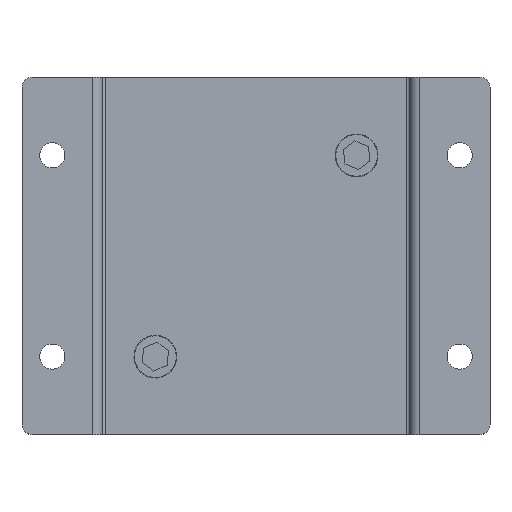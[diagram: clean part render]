
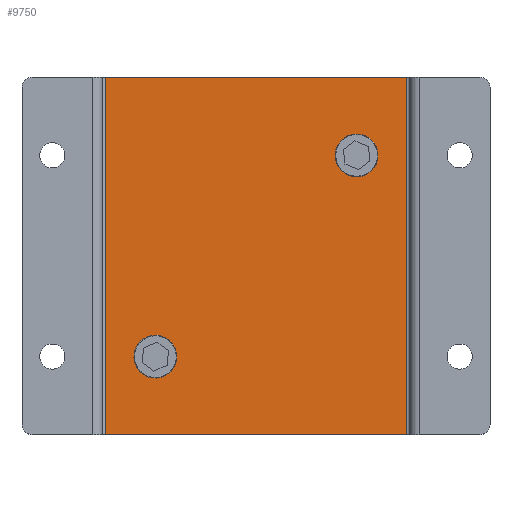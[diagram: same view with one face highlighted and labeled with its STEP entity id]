
A CAD part, top view. The second image highlights one B-rep face of the part: STEP entity #9750.
In plain terms, the highlighted planar face has unit normal (0, 0, 1) as drawn and (0, 0, -1) by its records, which use the part's own axes.
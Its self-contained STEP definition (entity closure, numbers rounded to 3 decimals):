
#69 = CIRCLE ( 'NONE', #5746, 2.75 ) ;
#504 = EDGE_LOOP ( 'NONE', ( #699, #6250 ) ) ;
#699 = ORIENTED_EDGE ( 'NONE', *, *, #5338, .T. ) ;
#722 = CARTESIAN_POINT ( 'NONE',  ( -30., 35.5, -1.5 ) ) ;
#1143 = EDGE_CURVE ( 'NONE', #2782, #10414, #2480, .T. ) ;
#1384 = AXIS2_PLACEMENT_3D ( 'NONE', #3897, #10658, #11710 ) ;
#1507 = LINE ( 'NONE', #13790, #2616 ) ;
#1916 = DIRECTION ( 'NONE',  ( 0., 0., 1. ) ) ;
#2000 = CARTESIAN_POINT ( 'NONE',  ( 30., -35.5, -1.5 ) ) ;
#2090 = CIRCLE ( 'NONE', #1384, 2.75 ) ;
#2406 = VECTOR ( 'NONE', #10046, 1000. ) ;
#2480 = LINE ( 'NONE', #13644, #12261 ) ;
#2543 = DIRECTION ( 'NONE',  ( 0., -1., 0. ) ) ;
#2553 = VERTEX_POINT ( 'NONE', #11133 ) ;
#2613 = ORIENTED_EDGE ( 'NONE', *, *, #12502, .T. ) ;
#2616 = VECTOR ( 'NONE', #2543, 1000. ) ;
#2782 = VERTEX_POINT ( 'NONE', #2000 ) ;
#2916 = EDGE_LOOP ( 'NONE', ( #4200, #8229 ) ) ;
#3073 = CARTESIAN_POINT ( 'NONE',  ( -20., 20., -1.5 ) ) ;
#3250 = CARTESIAN_POINT ( 'NONE',  ( 30., 35.5, -1.5 ) ) ;
#3442 = DIRECTION ( 'NONE',  ( -1., 0., 0. ) ) ;
#3731 = PLANE ( 'NONE',  #6584 ) ;
#3897 = CARTESIAN_POINT ( 'NONE',  ( 20., -20., -1.5 ) ) ;
#4013 = CARTESIAN_POINT ( 'NONE',  ( 17.25, -20., -1.5 ) ) ;
#4067 = ORIENTED_EDGE ( 'NONE', *, *, #1143, .T. ) ;
#4200 = ORIENTED_EDGE ( 'NONE', *, *, #13917, .T. ) ;
#4425 = CARTESIAN_POINT ( 'NONE',  ( 20., -20., -1.5 ) ) ;
#4773 = VERTEX_POINT ( 'NONE', #10990 ) ;
#5217 = DIRECTION ( 'NONE',  ( 1., 0., 0. ) ) ;
#5231 = DIRECTION ( 'NONE',  ( 1., 0., 0. ) ) ;
#5338 = EDGE_CURVE ( 'NONE', #2553, #13374, #2090, .T. ) ;
#5350 = ORIENTED_EDGE ( 'NONE', *, *, #11098, .F. ) ;
#5734 = DIRECTION ( 'NONE',  ( 1., 0., 0. ) ) ;
#5746 = AXIS2_PLACEMENT_3D ( 'NONE', #3073, #9777, #5217 ) ;
#5837 = DIRECTION ( 'NONE',  ( 0., 0., 1. ) ) ;
#6042 = VERTEX_POINT ( 'NONE', #3250 ) ;
#6250 = ORIENTED_EDGE ( 'NONE', *, *, #12082, .T. ) ;
#6402 = AXIS2_PLACEMENT_3D ( 'NONE', #4425, #1916, #13230 ) ;
#6438 = CARTESIAN_POINT ( 'NONE',  ( -30., 35.5, -1.5 ) ) ;
#6563 = LINE ( 'NONE', #722, #9300 ) ;
#6584 = AXIS2_PLACEMENT_3D ( 'NONE', #8271, #10351, #5734 ) ;
#6812 = CARTESIAN_POINT ( 'NONE',  ( -17.25, 20., -1.5 ) ) ;
#7277 = VERTEX_POINT ( 'NONE', #6438 ) ;
#7820 = ORIENTED_EDGE ( 'NONE', *, *, #8259, .F. ) ;
#7945 = DIRECTION ( 'NONE',  ( 1., 0., 0. ) ) ;
#8229 = ORIENTED_EDGE ( 'NONE', *, *, #12296, .T. ) ;
#8259 = EDGE_CURVE ( 'NONE', #2782, #6042, #10264, .T. ) ;
#8271 = CARTESIAN_POINT ( 'NONE',  ( -30., 40., -1.5 ) ) ;
#9171 = FACE_BOUND ( 'NONE', #504, .T. ) ;
#9279 = CIRCLE ( 'NONE', #6402, 2.75 ) ;
#9300 = VECTOR ( 'NONE', #5231, 1000. ) ;
#9394 = FACE_BOUND ( 'NONE', #2916, .T. ) ;
#9750 = ADVANCED_FACE ( 'NONE', ( #9394, #9171, #12674 ), #3731, .F. ) ;
#9777 = DIRECTION ( 'NONE',  ( 0., 0., 1. ) ) ;
#10025 = EDGE_LOOP ( 'NONE', ( #7820, #4067, #5350, #2613 ) ) ;
#10046 = DIRECTION ( 'NONE',  ( 0., 1., 0. ) ) ;
#10264 = LINE ( 'NONE', #12366, #2406 ) ;
#10351 = DIRECTION ( 'NONE',  ( 0., 0., 1. ) ) ;
#10414 = VERTEX_POINT ( 'NONE', #11963 ) ;
#10658 = DIRECTION ( 'NONE',  ( 0., 0., 1. ) ) ;
#10717 = AXIS2_PLACEMENT_3D ( 'NONE', #13606, #5837, #7945 ) ;
#10990 = CARTESIAN_POINT ( 'NONE',  ( -22.75, 20., -1.5 ) ) ;
#11098 = EDGE_CURVE ( 'NONE', #7277, #10414, #1507, .T. ) ;
#11133 = CARTESIAN_POINT ( 'NONE',  ( 22.75, -20., -1.5 ) ) ;
#11710 = DIRECTION ( 'NONE',  ( 1., 0., 0. ) ) ;
#11963 = CARTESIAN_POINT ( 'NONE',  ( -30., -35.5, -1.5 ) ) ;
#12082 = EDGE_CURVE ( 'NONE', #13374, #2553, #9279, .T. ) ;
#12261 = VECTOR ( 'NONE', #3442, 1000. ) ;
#12296 = EDGE_CURVE ( 'NONE', #4773, #12307, #13091, .T. ) ;
#12307 = VERTEX_POINT ( 'NONE', #6812 ) ;
#12366 = CARTESIAN_POINT ( 'NONE',  ( 30., -40., -1.5 ) ) ;
#12502 = EDGE_CURVE ( 'NONE', #7277, #6042, #6563, .T. ) ;
#12674 = FACE_OUTER_BOUND ( 'NONE', #10025, .T. ) ;
#13091 = CIRCLE ( 'NONE', #10717, 2.75 ) ;
#13230 = DIRECTION ( 'NONE',  ( 1., 0., 0. ) ) ;
#13374 = VERTEX_POINT ( 'NONE', #4013 ) ;
#13606 = CARTESIAN_POINT ( 'NONE',  ( -20., 20., -1.5 ) ) ;
#13644 = CARTESIAN_POINT ( 'NONE',  ( -30., -35.5, -1.5 ) ) ;
#13790 = CARTESIAN_POINT ( 'NONE',  ( -30., -40., -1.5 ) ) ;
#13917 = EDGE_CURVE ( 'NONE', #12307, #4773, #69, .T. ) ;
